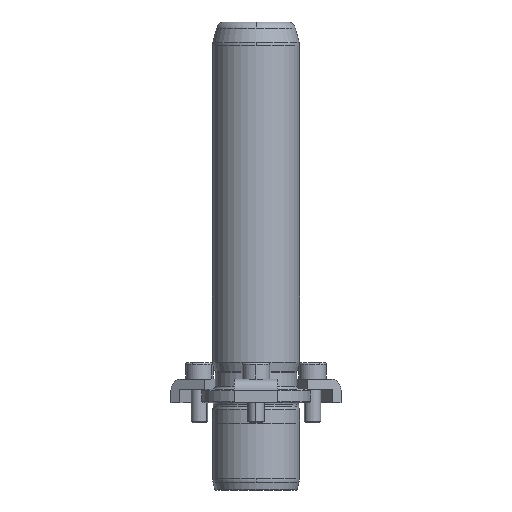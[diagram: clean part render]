
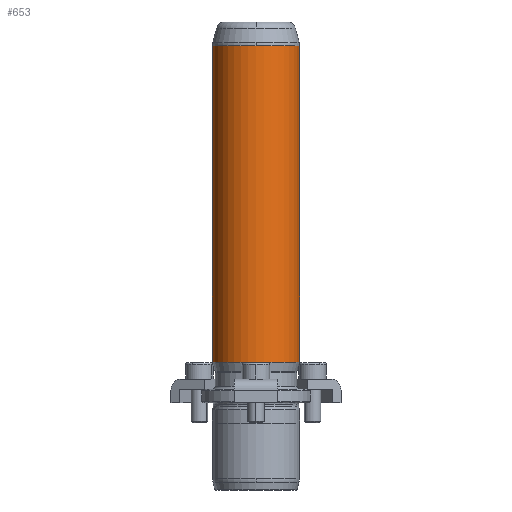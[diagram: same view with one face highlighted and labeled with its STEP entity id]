
A CAD part, front view. The second image highlights one B-rep face of the part: STEP entity #653.
In plain terms, the highlighted cylindrical face has radius 16 mm (diameter 32 mm), a partial arc.
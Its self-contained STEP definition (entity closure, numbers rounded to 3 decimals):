
#566=CARTESIAN_POINT('',(0.0,-16.,131.342));
#567=VERTEX_POINT('',#566);
#594=CARTESIAN_POINT('',(-16.0,0.,131.342));
#595=VERTEX_POINT('',#594);
#603=CARTESIAN_POINT('',(0.0,0.,131.342));
#604=DIRECTION('',(0.0,0.0,1.0));
#605=DIRECTION('',(1.0,0.0,0.0));
#606=AXIS2_PLACEMENT_3D('',#603,#604,#605);
#607=CIRCLE('',#606,16.0);
#608=EDGE_CURVE('',#595,#567,#607,.T.);
#613=CARTESIAN_POINT('',(0.0,0.,73.171));
#614=DIRECTION('',(0.0,0.,1.0));
#615=DIRECTION('',(1.0,0.0,0.0));
#616=AXIS2_PLACEMENT_3D('',#613,#614,#615);
#617=CYLINDRICAL_SURFACE('',#616,16.0);
#618=CARTESIAN_POINT('',(16.0,0.,131.342));
#619=VERTEX_POINT('',#618);
#620=CARTESIAN_POINT('',(16.0,0.,15.0));
#621=VERTEX_POINT('',#620);
#622=CARTESIAN_POINT('',(16.0,0.,131.342));
#623=DIRECTION('',(0.0,0.0,-1.0));
#624=VECTOR('',#623,116.342);
#625=LINE('',#622,#624);
#626=EDGE_CURVE('',#619,#621,#625,.T.);
#627=ORIENTED_EDGE('',*,*,#626,.F.);
#628=CARTESIAN_POINT('',(0.0,0.,131.342));
#629=DIRECTION('',(0.0,0.0,1.0));
#630=DIRECTION('',(1.0,0.0,0.0));
#631=AXIS2_PLACEMENT_3D('',#628,#629,#630);
#632=CIRCLE('',#631,16.0);
#633=EDGE_CURVE('',#567,#619,#632,.T.);
#634=ORIENTED_EDGE('',*,*,#633,.F.);
#635=ORIENTED_EDGE('',*,*,#608,.F.);
#636=CARTESIAN_POINT('',(-16.0,0.,15.0));
#637=VERTEX_POINT('',#636);
#638=CARTESIAN_POINT('',(-16.0,0.,131.342));
#639=DIRECTION('',(0.0,0.0,-1.0));
#640=VECTOR('',#639,116.342);
#641=LINE('',#638,#640);
#642=EDGE_CURVE('',#595,#637,#641,.T.);
#643=ORIENTED_EDGE('',*,*,#642,.T.);
#644=CARTESIAN_POINT('',(0.0,0.,15.0));
#645=DIRECTION('',(0.0,0.0,1.0));
#646=DIRECTION('',(1.0,0.0,0.0));
#647=AXIS2_PLACEMENT_3D('',#644,#645,#646);
#648=CIRCLE('',#647,16.0);
#649=EDGE_CURVE('',#637,#621,#648,.T.);
#650=ORIENTED_EDGE('',*,*,#649,.T.);
#651=EDGE_LOOP('',(#627,#634,#635,#643,#650));
#652=FACE_OUTER_BOUND('',#651,.T.);
#653=ADVANCED_FACE('',(#652),#617,.T.);
